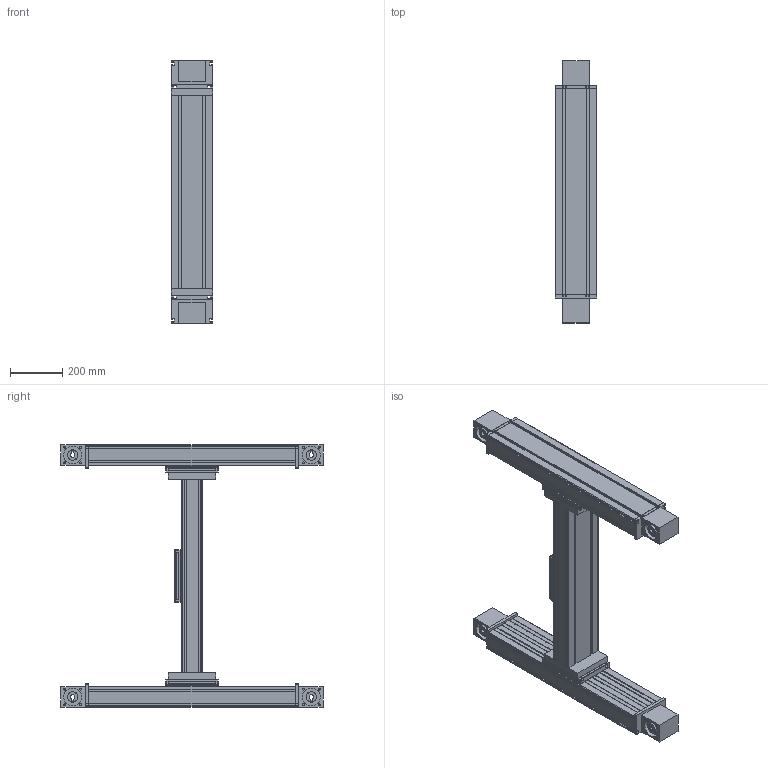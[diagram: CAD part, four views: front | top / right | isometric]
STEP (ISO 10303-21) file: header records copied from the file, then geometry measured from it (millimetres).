
FILE_DESCRIPTION (( 'STEP AP214' ), '1' );
FILE_NAME ('DLZU 160 - Konfig - ED.STEP', '2023-07-04T09:32:41', ( '' ), ( '' ), 'SwSTEP 2.0', 'SolidWorks 2020', '' );
FILE_SCHEMA (( 'AUTOMOTIVE_DESIGN' ));
Length unit declared in the file: millimetre
Products named in the file (8): end plate^DLZU 160 - Konfig - ED_standard; timing belt reverse unit^DLZU 160 - Konfig - ED_coupling claw pos.1; carriage x^DLZU 160 - Konfig - ED_carriage version 0; carriage y^DLZU 160 - Konfig - ED_carriage version 0; profile x^DLZU 160 - Konfig - ED_standard; DLZU 160 - Konfig - ED; timing belt reverse unit^DLZU 160 - Konfig - ED_coupling claw pos.2; profile y^DLZU 160 - Konfig - ED_standard
Assembly tree (14 placements, depth 2):
  DLZU 160 - Konfig - ED
    profile x^DLZU 160 - Konfig - ED_standard
    profile y^DLZU 160 - Konfig - ED_standard  x2
    carriage x^DLZU 160 - Konfig - ED_carriage version 0
    carriage y^DLZU 160 - Konfig - ED_carriage version 0  x2
    timing belt reverse unit^DLZU 160 - Konfig - ED_coupling claw pos.2  x2
    timing belt reverse unit^DLZU 160 - Konfig - ED_coupling claw pos.1  x2
    end plate^DLZU 160 - Konfig - ED_standard  x4
Bounding box: 160 x 1000 x 1000 mm (x, y, z)
Volume: 22523593.3 mm3; surface area: 4357683.8 mm2
Topology: 34 solids, 34 shells, 1160 faces, 3076 edges, 2008 vertices
Faces by surface type: plane 835, cylinder 293, sphere 24, cone 8
Entity records: 22378 total; most frequent: CARTESIAN_POINT 3631, ORIENTED_EDGE 3550, DIRECTION 3473, EDGE_CURVE 1775, LINE 1457, VECTOR 1457, VERTEX_POINT 1166, AXIS2_PLACEMENT_3D 1008
